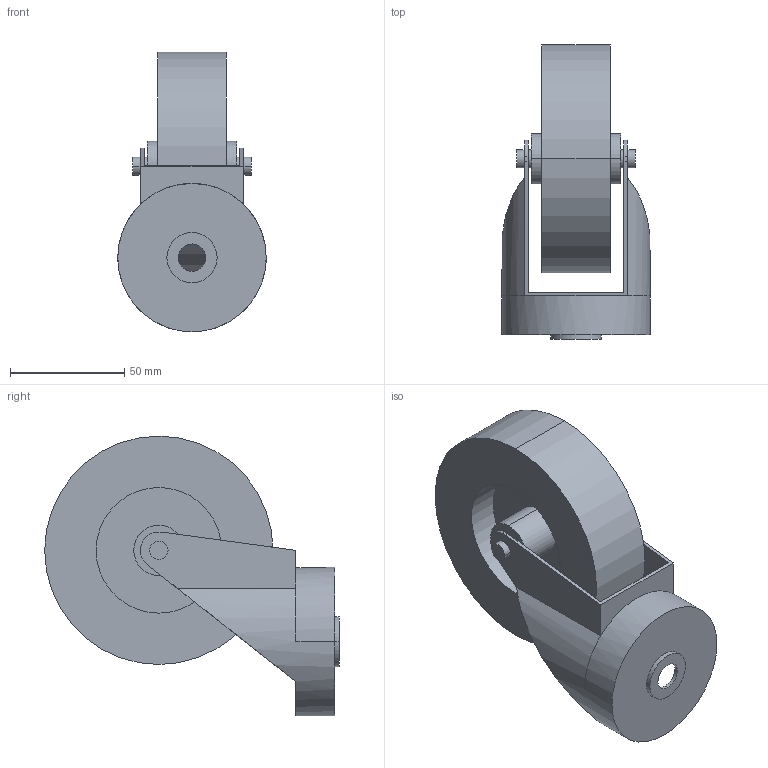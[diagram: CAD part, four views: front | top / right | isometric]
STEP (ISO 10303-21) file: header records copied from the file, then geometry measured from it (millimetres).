
FILE_DESCRIPTION((''),'2;1');
FILE_NAME('RUP100N_ASM','2002-12-27T',('Lipro doo'),('Lipro d.o.o.'),'PRO/ENGINEER BY PARAMETRIC TECHNOLOGY CORPORATION, 2001150','PRO/ENGINEER BY PARAMETRIC TECHNOLOGY CORPORATION, 2001150','');
FILE_SCHEMA(('CONFIG_CONTROL_DESIGN'));
Length unit declared in the file: millimetre
Products named in the file (3): RUP100_2; RUP100_1; RUP100N_ASM
Assembly tree (2 placements, depth 2):
  RUP100N_ASM
    RUP100_2
    RUP100_1
Bounding box: 65 x 129 x 122.5 mm (x, y, z)
Volume: 203577.9 mm3; surface area: 57104.1 mm2
Topology: 2 solids, 2 shells, 54 faces, 127 edges, 85 vertices
Faces by surface type: cylinder 30, plane 24
Entity records: 1709 total; most frequent: CARTESIAN_POINT 305, DIRECTION 302, ORIENTED_EDGE 254, EDGE_CURVE 127, AXIS2_PLACEMENT_3D 122, VERTEX_POINT 85, EDGE_LOOP 68, CIRCLE 63
